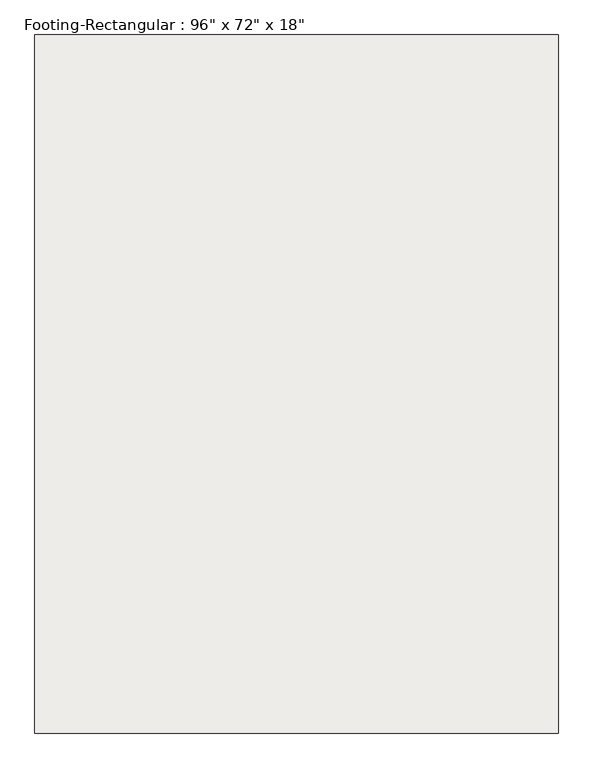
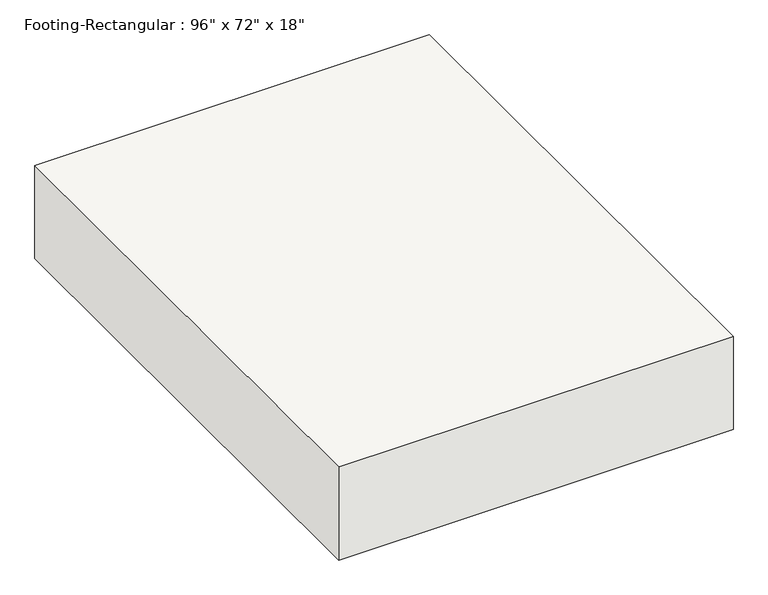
"""IFC4 building model written with IfcOpenShell, lengths in millimetres: slab geometry."""

from ifc_helpers import new_model, si_unit, frame, origin, place, context, project, spatial, polyline, outline, extrude, source, transform, mapped, element, save


def slab_7b69f09a(model_context):
    return source(origin(), model_context, "Body", "SweptSolid", [
        extrude(outline(polyline([(914.4, 1219.2), (914.4, -1219.2), (-914.4, -1219.2), (-914.4, 1219.2), (914.4, 1219.2)])), frame((0.0, 0.0, -457.2), z_axis=(0.0, 0.0, 1.0), x_axis=(1.0, 0.0, 0.0)), (0.0, 0.0, 1.0), 457.2),
    ])


if __name__ == "__main__":
    model = new_model("IFC4")
    model_context = context("Model", 3, world=origin())
    ifc_project = project(units=[si_unit("LENGTHUNIT", "METRE", prefix="MILLI")], contexts=[model_context])
    site = spatial("IfcSite", under=ifc_project)
    building = spatial("IfcBuilding", under=site)
    placement = place(None, origin())
    slab_shape = slab_7b69f09a(model_context)
    element("IfcSlab", 1, ObjectType="Footing-Rectangular : 96\" x 72\" x 18\"", at=placement, inside=building, context=model_context, shape_type="MappedRepresentation", body=[
        mapped(slab_shape, transform((0.0, 0.0, 0.0), x_axis=(1.0, 0.0, 0.0), y_axis=(0.0, 1.0, 0.0), z_axis=(0.0, 0.0, 1.0))),
    ])
    save(model, "model.ifc")
